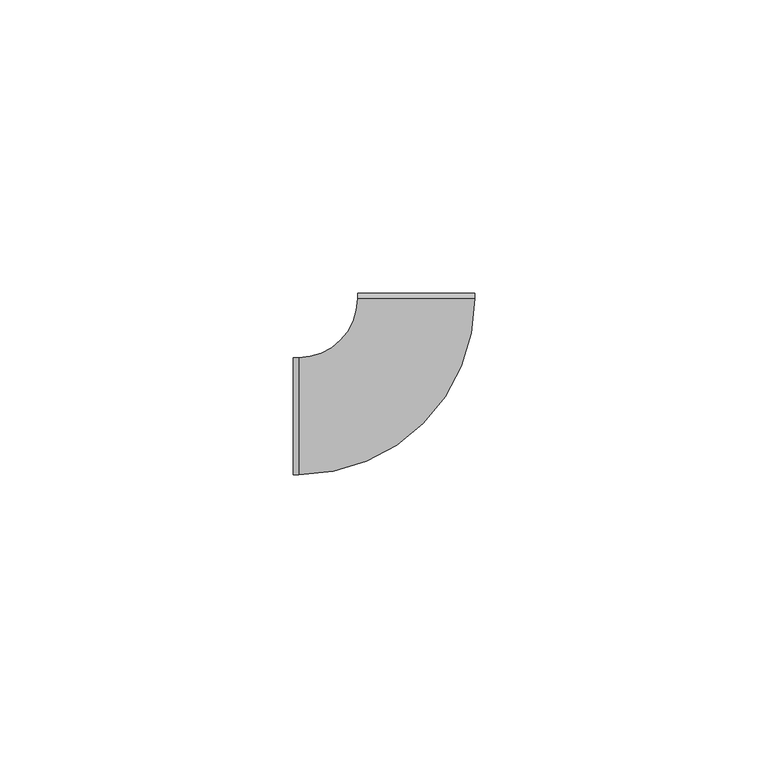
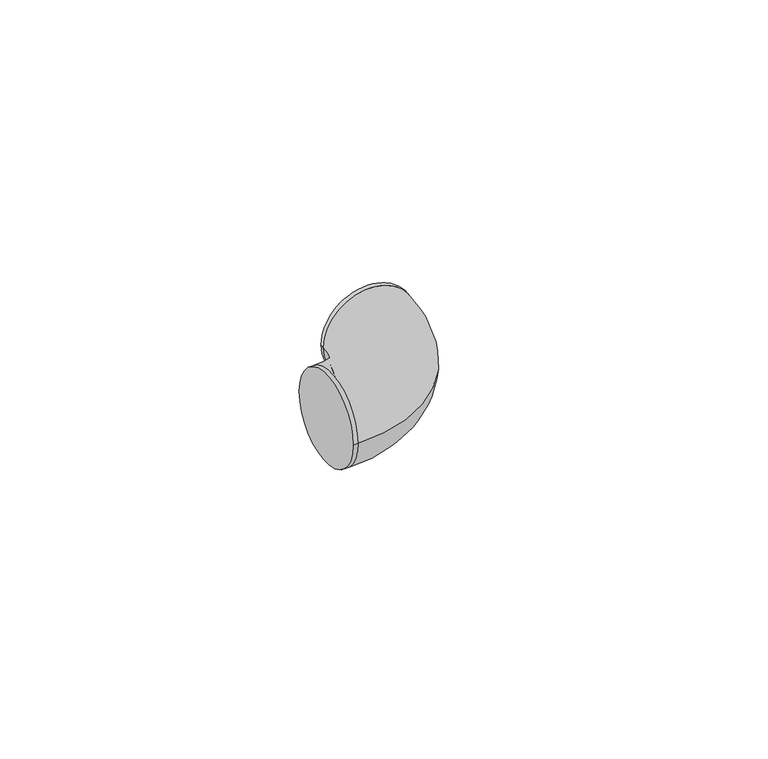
"""IFC4 building model written with IfcOpenShell, lengths in millimetres: cable carrier fitting geometry, ADSK_Поворот_Минимальный размер : Неспецифицируемый."""

from ifc_helpers import new_model, si_unit, point, frame, origin, place, context, project, spatial, circle_curve, ellipse_curve, trimmed, source, transform, mapped, element, save
from ifc_brep_helpers import plane_surface, cylinder_surface, revolved_surface, advanced_brep


def cable_carrier_fitting_51f7237e(model_context):
    return source(origin(), model_context, "Body", "AdvancedBrep", [
        advanced_brep(
        [(-20.9999996, -10.0, 0.0), (-20.9999996, 10.0, 0.0), (-19.9999996, -10.0, 0.0), (-19.9999996, 10.0, 0.0), (-9.9999996, 19.9999998, 0.0), (10.0000004, 19.9999994, 0.0), (10.0000004, 20.9999994, 0.0), (-9.9999996, 20.9999998, 0.0)],
        [
            (0, 1, circle_curve(frame((-20.9999996, 0.0, 0.0), z_axis=(-1.0, -4.92260399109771e-12, 0.0), x_axis=(-4.92260399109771e-12, 1.0, 0.0)), 10.0)),
            (1, 0, circle_curve(frame((-20.9999996, 0.0, 0.0), z_axis=(-1.0, -4.92260399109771e-12, 0.0), x_axis=(-4.92260399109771e-12, 1.0, 0.0)), 10.0)),
            (0, 2),
            (2, 3, circle_curve(frame((-19.9999996, 0.0, 0.0), z_axis=(-1.0, -4.92260399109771e-12, 0.0), x_axis=(-4.92260399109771e-12, 1.0, 0.0)), 10.0)),
            (3, 1),
            (3, 2, circle_curve(frame((-19.9999996, 0.0, 0.0), z_axis=(-1.0, -4.92260399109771e-12, 0.0), x_axis=(-4.92260399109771e-12, 1.0, 0.0)), 10.0)),
            (4, 3, circle_curve(frame((-19.9999996, 20.0, 0.0), z_axis=(0.0, 0.0, -1.0), x_axis=(0.0, -1.0, 0.0)), 10.0)),
            (2, 5, circle_curve(frame((-19.9999996, 20.0, 0.0), z_axis=(0.0, 0.0, 1.0), x_axis=(0.0, -1.0, 0.0)), 30.0)),
            (5, 4, circle_curve(frame((4e-07, 19.9999996, 0.0), z_axis=(-2.0598480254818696e-08, -0.9999999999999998, 0.0), x_axis=(-0.9999999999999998, 2.0598480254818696e-08, 0.0)), 10.0)),
            (4, 5, circle_curve(frame((4e-07, 19.9999996, 0.0), z_axis=(-2.0598480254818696e-08, -0.9999999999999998, 0.0), x_axis=(-0.9999999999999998, 2.0598480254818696e-08, 0.0)), 10.0)),
            (6, 7, circle_curve(frame((4e-07, 20.9999996, 0.0), z_axis=(2.059848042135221e-08, 0.9999999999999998, 0.0), x_axis=(-0.9999999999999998, 2.059848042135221e-08, 0.0)), 10.0)),
            (7, 6, circle_curve(frame((4e-07, 20.9999996, 0.0), z_axis=(2.059848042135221e-08, 0.9999999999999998, 0.0), x_axis=(-0.9999999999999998, 2.059848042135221e-08, 0.0)), 10.0)),
            (5, 6),
            (7, 4),
        ],
        [
            plane_surface(frame((-20.9999996, 0.0, 0.0), z_axis=(-1.0, -4.92260399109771e-12, 0.0), x_axis=(0.0, 0.0, 1.0))),
            cylinder_surface(frame((-20.9999996, 0.0, 0.0), z_axis=(-1.0, -4.92260399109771e-12, 0.0), x_axis=(-4.92260399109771e-12, 1.0, 0.0)), 10.0),
            revolved_surface(trimmed(ellipse_curve(frame((-19.9999996, 0.0, 0.0), z_axis=(-1.0, 0.0, 0.0), x_axis=(0.0, 1.0, 0.0)), 10.0, 10.0), [point((-19.9999996, -10.0, 0.0))], [point((-19.9999996, 10.0, 0.0))], True, "CARTESIAN"), (-19.9999996, 20.0, 0.0), (0.0, 0.0, 1.0)),
            revolved_surface(trimmed(ellipse_curve(frame((-19.9999996, 0.0, 0.0), z_axis=(-1.0, 0.0, 0.0), x_axis=(0.0, 1.0, 0.0)), 10.0, 10.0), [point((-19.9999996, 10.0, 0.0))], [point((-19.9999996, -10.0, 0.0))], True, "CARTESIAN"), (-19.9999996, 20.0, 0.0), (0.0, 0.0, 1.0)),
            plane_surface(frame((4e-07, 20.9999996, 0.0), z_axis=(2.059848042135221e-08, 0.9999999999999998, 0.0), x_axis=(0.0, 0.0, 1.0))),
            cylinder_surface(frame((4e-07, 19.9999996, 0.0), z_axis=(-2.059848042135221e-08, -0.9999999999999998, 0.0), x_axis=(-0.9999999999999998, 2.059848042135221e-08, 0.0)), 10.0),
        ],
        [
            (0, [[1, 2]]),
            (1, [[-1, 3, 4, 5]]),
            (1, [[-2, -5, 6, -3]]),
            (2, [[7, -4, 8, 9]]),
            (3, [[-8, -6, -7, 10]]),
            (4, [[11, 12]]),
            (5, [[-9, 13, -12, 14]]),
            (5, [[-10, -14, -11, -13]]),
        ],
    ),
    ])


if __name__ == "__main__":
    model = new_model("IFC4")
    model_context = context("Model", 3, world=origin())
    ifc_project = project(units=[si_unit("LENGTHUNIT", "METRE", prefix="MILLI")], contexts=[model_context])
    site = spatial("IfcSite", under=ifc_project)
    building = spatial("IfcBuilding", under=site)
    placement = place(None, origin())
    cable_carrier_fitting_shape = cable_carrier_fitting_51f7237e(model_context)
    element("IfcCableCarrierFitting", 1, ObjectType="ADSK_Поворот_Минимальный размер : Неспецифицируемый", at=placement, inside=building, context=model_context, shape_type="MappedRepresentation", body=[
        mapped(cable_carrier_fitting_shape, transform((0.0, 0.0, 0.0), x_axis=(1.0, 0.0, 0.0), y_axis=(0.0, 1.0, 0.0), z_axis=(0.0, 0.0, 1.0))),
    ])
    save(model, "model.ifc")
